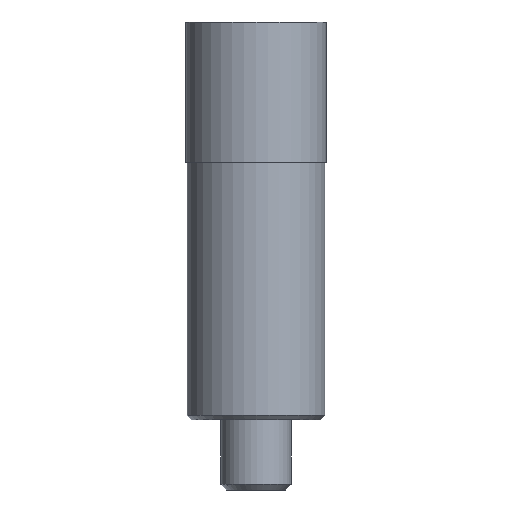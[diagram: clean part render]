
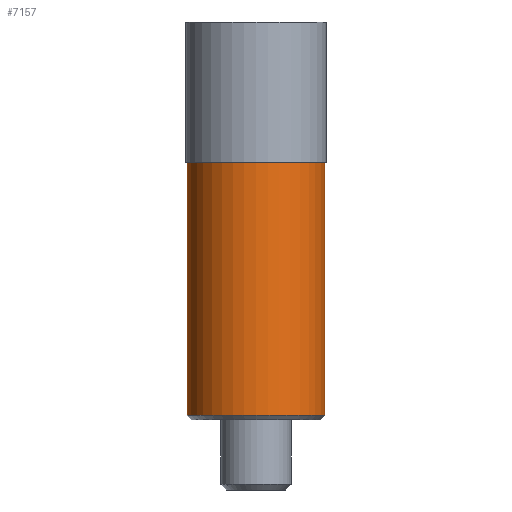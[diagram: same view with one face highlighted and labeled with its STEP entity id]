
A CAD part, front view. The second image highlights one B-rep face of the part: STEP entity #7157.
In plain terms, the highlighted cylindrical face has radius 2.935 mm (diameter 5.87 mm), a partial arc.
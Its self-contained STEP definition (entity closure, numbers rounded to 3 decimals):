
#47 = LINE ( 'NONE', #1623, #6119 ) ;
#454 = CARTESIAN_POINT ( 'NONE',  ( 0., 0., -16.815 ) ) ;
#482 = VERTEX_POINT ( 'NONE', #1444 ) ;
#729 = CIRCLE ( 'NONE', #1186, 2.935 ) ;
#898 = CARTESIAN_POINT ( 'NONE',  ( 0., 0., 0. ) ) ;
#1186 = AXIS2_PLACEMENT_3D ( 'NONE', #3127, #1353, #5517 ) ;
#1353 = DIRECTION ( 'NONE',  ( 0., 0., 1. ) ) ;
#1444 = CARTESIAN_POINT ( 'NONE',  ( 2.935, 0., -6. ) ) ;
#1571 = AXIS2_PLACEMENT_3D ( 'NONE', #898, #6693, #3266 ) ;
#1623 = CARTESIAN_POINT ( 'NONE',  ( -2.935, 0., 0. ) ) ;
#1966 = LINE ( 'NONE', #4983, #7272 ) ;
#2096 = CARTESIAN_POINT ( 'NONE',  ( -2.935, 0., -16.815 ) ) ;
#2688 = CYLINDRICAL_SURFACE ( 'NONE', #1571, 2.935 ) ;
#2739 = DIRECTION ( 'NONE',  ( 1., 0., 0. ) ) ;
#3127 = CARTESIAN_POINT ( 'NONE',  ( 0., 0., -6. ) ) ;
#3155 = EDGE_CURVE ( 'NONE', #3528, #482, #729, .T. ) ;
#3266 = DIRECTION ( 'NONE',  ( 1., 0., 0. ) ) ;
#3339 = DIRECTION ( 'NONE',  ( 0., 0., 1. ) ) ;
#3528 = VERTEX_POINT ( 'NONE', #3805 ) ;
#3805 = CARTESIAN_POINT ( 'NONE',  ( -2.935, 0., -6. ) ) ;
#3986 = FACE_OUTER_BOUND ( 'NONE', #4428, .T. ) ;
#4317 = CARTESIAN_POINT ( 'NONE',  ( 2.935, 0., -16.815 ) ) ;
#4428 = EDGE_LOOP ( 'NONE', ( #6059, #7568, #6093, #5004 ) ) ;
#4432 = VERTEX_POINT ( 'NONE', #4317 ) ;
#4983 = CARTESIAN_POINT ( 'NONE',  ( 2.935, 0., 0. ) ) ;
#5004 = ORIENTED_EDGE ( 'NONE', *, *, #3155, .F. ) ;
#5037 = AXIS2_PLACEMENT_3D ( 'NONE', #454, #3339, #2739 ) ;
#5460 = CIRCLE ( 'NONE', #5037, 2.935 ) ;
#5517 = DIRECTION ( 'NONE',  ( 1., 0., 0. ) ) ;
#5804 = EDGE_CURVE ( 'NONE', #6078, #3528, #47, .T. ) ;
#6059 = ORIENTED_EDGE ( 'NONE', *, *, #5804, .F. ) ;
#6078 = VERTEX_POINT ( 'NONE', #2096 ) ;
#6093 = ORIENTED_EDGE ( 'NONE', *, *, #6240, .T. ) ;
#6119 = VECTOR ( 'NONE', #6859, 1000. ) ;
#6129 = DIRECTION ( 'NONE',  ( 0., 0., 1. ) ) ;
#6154 = EDGE_CURVE ( 'NONE', #6078, #4432, #5460, .T. ) ;
#6240 = EDGE_CURVE ( 'NONE', #4432, #482, #1966, .T. ) ;
#6693 = DIRECTION ( 'NONE',  ( 0., 0., 1. ) ) ;
#6859 = DIRECTION ( 'NONE',  ( 0., 0., 1. ) ) ;
#7157 = ADVANCED_FACE ( 'NONE', ( #3986 ), #2688, .T. ) ;
#7272 = VECTOR ( 'NONE', #6129, 1000. ) ;
#7568 = ORIENTED_EDGE ( 'NONE', *, *, #6154, .T. ) ;
